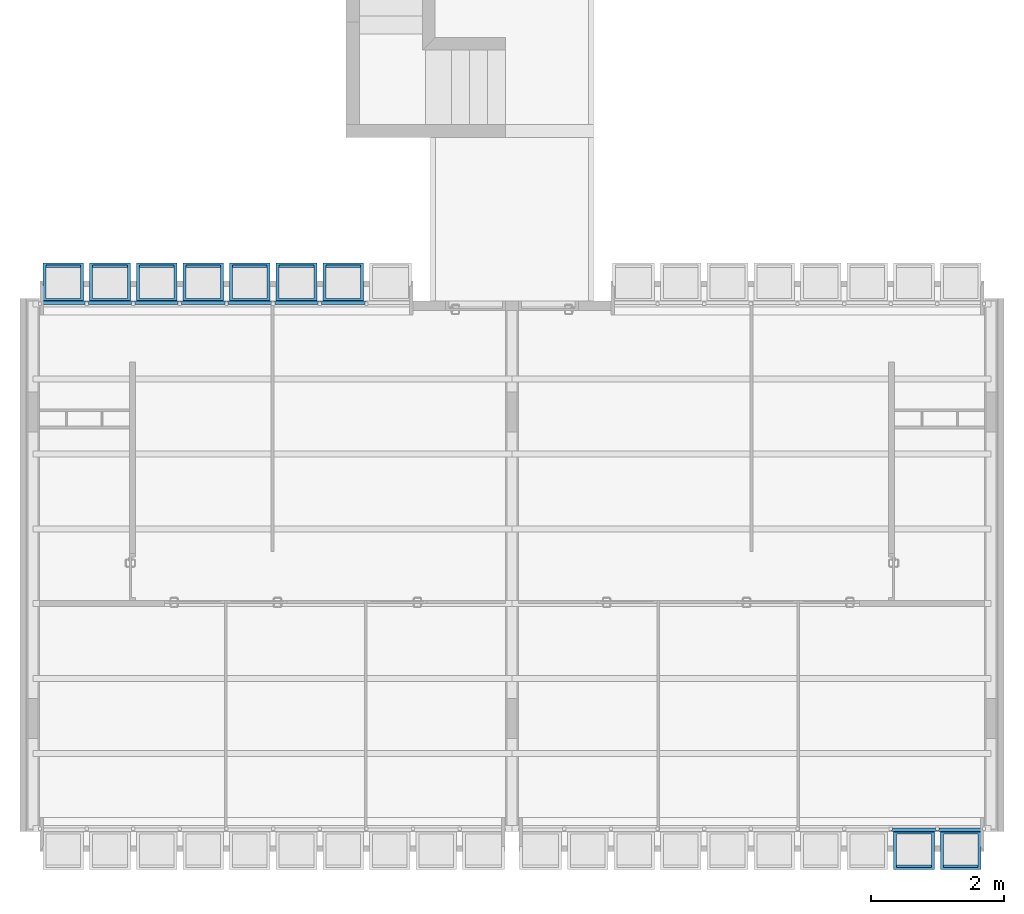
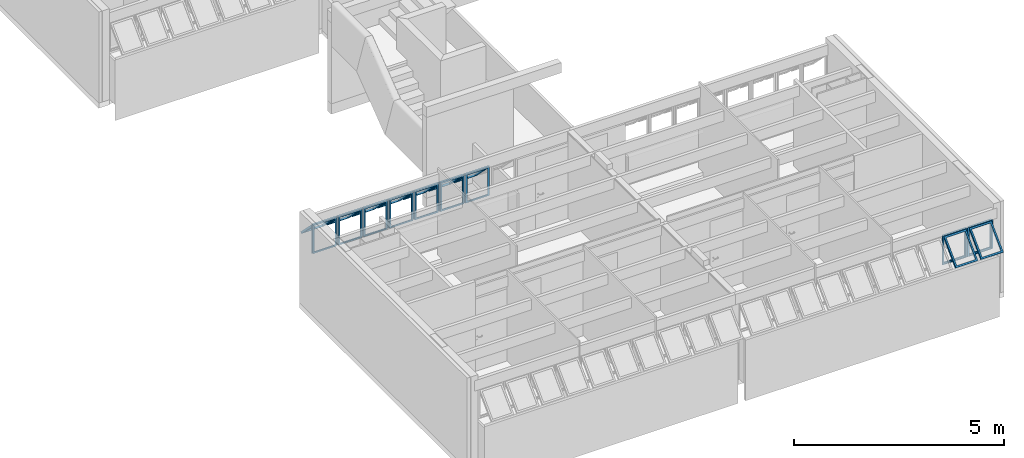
# One storey, part 28 of 37: 9 building element parts, 11 elements without a shape of their own.
"""IFC2X3 building model written with IfcOpenShell, lengths in millimetres."""

from ifc_helpers import new_model, entity, si_unit, converted_unit, derived_unit, money_unit, direction, frame, origin_with_axes, place, context, subcontext, project, spatial, faceted_brep, source, transform, mapped, material, type_object, element, aggregate, save


model = new_model("IFC2X3")

# Units and contexts
model_context = context("Model", 3, precision=0.01, world=origin_with_axes(), true_north=direction((0.0, 1.0)))
body_context = subcontext(model_context, "Body", "Model", "MODEL_VIEW")
ifc_project = project(units=[si_unit("LENGTHUNIT", "METRE", prefix="MILLI"), si_unit("AREAUNIT", "SQUARE_METRE"), si_unit("VOLUMEUNIT", "CUBIC_METRE"), converted_unit("PLANEANGLEUNIT", "DEGREE", entity("IfcPlaneAngleMeasure", 0.0174532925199), si_unit("PLANEANGLEUNIT", "RADIAN"), dimensions=[0, 0, 0, 0, 0, 0, 0]), money_unit("USD"), converted_unit("TIMEUNIT", "Year", entity("IfcTimeMeasure", 31556926.0), si_unit("TIMEUNIT", "SECOND"), dimensions=[0, 0, 1, 0, 0, 0, 0]), si_unit("MASSUNIT", "GRAM", prefix="KILO"), si_unit("THERMODYNAMICTEMPERATUREUNIT", "DEGREE_CELSIUS"), si_unit("LUMINOUSINTENSITYUNIT", "LUMEN"), si_unit("ENERGYUNIT", "JOULE", prefix="MEGA"), derived_unit("THERMALCONDUCTANCEUNIT", [(si_unit("POWERUNIT", "WATT"), 1), (si_unit("LENGTHUNIT", "METRE"), -1), (si_unit("THERMODYNAMICTEMPERATUREUNIT", "KELVIN"), -1)]), derived_unit("SPECIFICHEATCAPACITYUNIT", [(si_unit("ENERGYUNIT", "JOULE"), 1), (si_unit("MASSUNIT", "GRAM", prefix="KILO"), -1), (si_unit("THERMODYNAMICTEMPERATUREUNIT", "KELVIN"), -1)]), derived_unit("MASSDENSITYUNIT", [(si_unit("MASSUNIT", "GRAM", prefix="KILO"), 1), (si_unit("VOLUMEUNIT", "CUBIC_METRE"), -1)])], contexts=[model_context])

# Site, building, storey
site_placement = place(None, origin_with_axes())
site = spatial("IfcSite", under=ifc_project, at=site_placement, Name="Local", CompositionType="ELEMENT")
building_placement = place(site_placement, origin_with_axes())
building = spatial("IfcBuilding", under=site, at=building_placement, Name="Construção", CompositionType="ELEMENT")
storey_placement = place(building_placement, origin_with_axes())
storey = spatial("IfcBuildingStorey", under=building, at=storey_placement, Name="Primeiro Pavimento", CompositionType="ELEMENT", Elevation=0.0)

# Window, plates, building element parts
window_style = type_object("IfcWindowStyle", Name="Tipo de Parede Cortina", ConstructionType="NOTDEFINED", OperationType="NOTDEFINED", ParameterTakesPrecedence=False, Sizeable=False)
window_1_placement = place(storey_placement, frame((294.99998404, 8250.0, 1355.00007107), z_axis=(0.0, 0.0, 1.0), x_axis=(1.0, 0.0, 0.0)))
window_1 = element("IfcWindow", 1, at=window_1_placement, inside=storey, type_object=window_style, Name="APTO1-JANELA-000")
plate_type = type_object("IfcPlateType", Name="Painel Principal 690 x 845 x 20", PredefinedType="CURTAIN_PANEL")
plate_1_placement = place(window_1_placement, frame((4555.00001596, 0.0, 422.499964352), z_axis=(0.0, 0.0, 1.0), x_axis=(-1.0, 0.0, 0.0)))
plate_1 = element("IfcPlate", 2, at=plate_1_placement, type_object=plate_type, Name="APTO1-Painel-Prin-029")
ifc_material = material(Name="Alumínio")
shared_shape_1 = source(origin_with_axes(), body_context, "Body", "Brep", [
    faceted_brep([(-25.0000036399, 0.0, -40.0), (-25.0000036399, 0.0, -35.0), (-674.999997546, 0.0, -35.0), (-674.999997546, 0.0, -40.0), (-70.0000036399, 45.0, -40.0), (-70.0000036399, 45.0, -35.0), (-629.999997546, 45.0, -35.0), (-629.999997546, 45.0, -40.0)], [[[0, 1, 2, 3]], [[4, 5, 1, 0]], [[1, 5, 6, 2]], [[3, 2, 6, 7]], [[0, 3, 7, 4]], [[7, 6, 5, 4]]]),
    faceted_brep([(-674.999997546, 0.0, -40.0), (-674.999997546, 0.0, -35.0), (-674.999997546, 844.999891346, -35.0), (-674.999997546, 844.999891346, -40.0), (-629.999997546, 45.0, -40.0), (-629.999997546, 45.0, -35.0), (-629.999997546, 799.999891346, -35.0), (-629.999997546, 799.999891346, -40.0)], [[[0, 1, 2, 3]], [[4, 5, 1, 0]], [[1, 5, 6, 2]], [[3, 2, 6, 7]], [[0, 3, 7, 4]], [[7, 6, 5, 4]]]),
    faceted_brep([(-25.0000036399, 844.999891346, -40.0), (-25.0000036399, 844.999891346, -35.0), (-70.0000036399, 799.999891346, -35.0), (-70.0000036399, 799.999891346, -40.0), (-674.999997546, 844.999891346, -40.0), (-674.999997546, 844.999891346, -35.0), (-629.999997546, 799.999891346, -35.0), (-629.999997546, 799.999891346, -40.0)], [[[0, 1, 2, 3]], [[4, 5, 1, 0]], [[1, 5, 6, 2]], [[3, 2, 6, 7]], [[0, 3, 7, 4]], [[7, 6, 5, 4]]]),
    faceted_brep([(-25.0000036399, 0.0, -40.0), (-25.0000036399, 0.0, -35.0), (-70.0000036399, 45.0, -35.0), (-70.0000036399, 45.0, -40.0), (-25.0000036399, 844.999891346, -40.0), (-25.0000036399, 844.999891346, -35.0), (-70.0000036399, 799.999891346, -35.0), (-70.0000036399, 799.999891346, -40.0)], [[[0, 1, 2, 3]], [[4, 5, 1, 0]], [[1, 5, 6, 2]], [[3, 2, 6, 7]], [[0, 3, 7, 4]], [[7, 6, 5, 4]]]),
    faceted_brep([(-25.0000036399, 0.0, -35.0), (-25.0000036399, 0.0, 15.0), (-674.999997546, 0.0, 15.0), (-674.999997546, 0.0, -35.0), (-45.0000036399, 20.0, -35.0), (-45.0000036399, 20.0, 15.0), (-654.999997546, 20.0, 15.0), (-654.999997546, 20.0, -35.0)], [[[0, 1, 2, 3]], [[4, 5, 1, 0]], [[1, 5, 6, 2]], [[3, 2, 6, 7]], [[0, 3, 7, 4]], [[7, 6, 5, 4]]]),
    faceted_brep([(-674.999997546, 0.0, -35.0), (-674.999997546, 0.0, 15.0), (-674.999997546, 844.999891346, 15.0), (-674.999997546, 844.999891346, -35.0), (-654.999997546, 20.0, -35.0), (-654.999997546, 20.0, 15.0), (-654.999997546, 824.999891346, 15.0), (-654.999997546, 824.999891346, -35.0)], [[[0, 1, 2, 3]], [[4, 5, 1, 0]], [[1, 5, 6, 2]], [[3, 2, 6, 7]], [[0, 3, 7, 4]], [[7, 6, 5, 4]]]),
    faceted_brep([(-25.0000036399, 844.999891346, -35.0), (-25.0000036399, 844.999891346, 15.0), (-45.0000036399, 824.999891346, 15.0), (-45.0000036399, 824.999891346, -35.0), (-674.999997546, 844.999891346, -35.0), (-674.999997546, 844.999891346, 15.0), (-654.999997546, 824.999891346, 15.0), (-654.999997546, 824.999891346, -35.0)], [[[0, 1, 2, 3]], [[4, 5, 1, 0]], [[1, 5, 6, 2]], [[3, 2, 6, 7]], [[0, 3, 7, 4]], [[7, 6, 5, 4]]]),
    faceted_brep([(-25.0000036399, 0.0, -35.0), (-25.0000036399, 0.0, 15.0), (-45.0000036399, 20.0, 15.0), (-45.0000036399, 20.0, -35.0), (-25.0000036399, 844.999891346, -35.0), (-25.0000036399, 844.999891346, 15.0), (-45.0000036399, 824.999891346, 15.0), (-45.0000036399, 824.999891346, -35.0)], [[[0, 1, 2, 3]], [[4, 5, 1, 0]], [[1, 5, 6, 2]], [[3, 2, 6, 7]], [[0, 3, 7, 4]], [[7, 6, 5, 4]]]),
    faceted_brep([(-694.999995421, 0.0, -10.0), (-694.999995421, 0.0, 10.0), (-694.999995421, 844.999891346, 10.0), (-694.999995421, 844.999891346, -10.0), (-674.999997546, 0.0, -10.0), (-674.999997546, 0.0, 10.0), (-674.999997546, 844.999891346, 10.0), (-674.999997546, 844.999891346, -10.0)], [[[0, 1, 2, 3]], [[4, 5, 1, 0]], [[1, 5, 6, 2]], [[3, 2, 6, 7]], [[0, 3, 7, 4]], [[7, 6, 5, 4]]]),
    faceted_brep([(-5.00000576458, 844.999891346, -10.0), (-5.00000576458, 844.999891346, 10.0), (-5.00000576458, 0.0, 10.0), (-5.00000576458, 0.0, -10.0), (-25.0000036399, 844.999891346, -10.0), (-25.0000036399, 844.999891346, 10.0), (-25.0000036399, 0.0, 10.0), (-25.0000036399, 0.0, -10.0)], [[[0, 1, 2, 3]], [[4, 5, 1, 0]], [[1, 5, 6, 2]], [[3, 2, 6, 7]], [[0, 3, 7, 4]], [[7, 6, 5, 4]]]),
    faceted_brep([(-90.0000036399, 252.243475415, 517.045737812), (-90.0000036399, 291.13434838, 555.936610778), (-90.0000036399, 796.715620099, 50.3553390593), (-90.0000036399, 757.824747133, 11.4644660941), (-45.0000036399, 220.423670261, 548.865542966), (-45.0000036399, 259.314543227, 587.756415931), (-45.0000036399, 828.535425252, 18.5355339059), (-45.0000036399, 789.644552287, -20.3553390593)], [[[0, 1, 2, 3]], [[4, 5, 1, 0]], [[1, 5, 6, 2]], [[3, 2, 6, 7]], [[0, 3, 7, 4]], [[7, 6, 5, 4]]]),
    faceted_brep([(-654.999997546, 220.423670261, 548.865542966), (-654.999997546, 259.314543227, 587.756415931), (-654.999997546, 828.535425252, 18.5355339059), (-654.999997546, 789.644552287, -20.3553390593), (-609.999997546, 252.243475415, 517.045737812), (-609.999997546, 291.13434838, 555.936610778), (-609.999997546, 796.715620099, 50.3553390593), (-609.999997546, 757.824747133, 11.4644660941)], [[[0, 1, 2, 3]], [[4, 5, 1, 0]], [[1, 5, 6, 2]], [[3, 2, 6, 7]], [[0, 3, 7, 4]], [[7, 6, 5, 4]]]),
    faceted_brep([(-654.999997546, 220.423670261, 548.865542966), (-654.999997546, 259.314543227, 587.756415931), (-609.999997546, 291.13434838, 555.936610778), (-609.999997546, 252.243475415, 517.045737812), (-45.0000036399, 220.423670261, 548.865542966), (-45.0000036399, 259.314543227, 587.756415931), (-90.0000036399, 291.13434838, 555.936610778), (-90.0000036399, 252.243475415, 517.045737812)], [[[0, 1, 2, 3]], [[4, 5, 1, 0]], [[1, 5, 6, 2]], [[3, 2, 6, 7]], [[0, 3, 7, 4]], [[7, 6, 5, 4]]]),
    faceted_brep([(-45.0000036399, 789.644552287, -20.3553390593), (-45.0000036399, 828.535425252, 18.5355339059), (-90.0000036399, 796.715620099, 50.3553390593), (-90.0000036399, 757.824747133, 11.4644660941), (-654.999997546, 789.644552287, -20.3553390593), (-654.999997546, 828.535425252, 18.5355339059), (-609.999997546, 796.715620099, 50.3553390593), (-609.999997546, 757.824747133, 11.4644660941)], [[[0, 1, 2, 3]], [[4, 5, 1, 0]], [[1, 5, 6, 2]], [[3, 2, 6, 7]], [[0, 3, 7, 4]], [[7, 6, 5, 4]]]),
])
building_element_part_1_placement = place(plate_1_placement, origin_with_axes())
building_element_part_1 = element("IfcBuildingElementPart", 3, at=building_element_part_1_placement, material=ifc_material, Name="Alumínio", context=body_context, shape_type="MappedRepresentation", body=[
    mapped(shared_shape_1, transform((350.0, 0.0, -422.499964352), x_axis=(1.0, 0.0, 0.0), y_axis=(0.0, 0.0, 1.0), z_axis=(0.0, -1.0, 0.0))),
])
aggregate(plate_1, [building_element_part_1])
plate_2_placement = place(window_1_placement, frame((2455.00001596, 0.0, 422.499964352), z_axis=(0.0, 0.0, 1.0), x_axis=(-1.0, 0.0, 0.0)))
plate_2 = element("IfcPlate", 4, at=plate_2_placement, type_object=plate_type, Name="APTO1-Painel-Prin-013")
building_element_part_2_placement = place(plate_2_placement, origin_with_axes())
building_element_part_2 = element("IfcBuildingElementPart", 5, at=building_element_part_2_placement, material=ifc_material, Name="Alumínio", context=body_context, shape_type="MappedRepresentation", body=[
    mapped(shared_shape_1, transform((350.0, 0.0, -422.499964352), x_axis=(1.0, 0.0, 0.0), y_axis=(0.0, 0.0, 1.0), z_axis=(0.0, -1.0, 0.0))),
])
aggregate(plate_2, [building_element_part_2])

window_2_placement = place(storey_placement, frame((8520.0, 315.020977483, 1355.02054151), z_axis=(0.0, 0.0, 1.0), x_axis=(1.0, 0.0, 0.0)))
window_2 = element("IfcWindow", 6, at=window_2_placement, inside=storey, type_object=window_style, Name="APTO2-JANELA-001")
plate_3_placement = place(window_2_placement, frame((5600.0, 0.0, 422.499945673), z_axis=(0.0, 0.0, 1.0), x_axis=(1.0, 0.0, 0.0)))
plate_3 = element("IfcPlate", 7, at=plate_3_placement, type_object=plate_type, Name="APTO2-Painel-Prin-013")
shared_shape_2 = source(origin_with_axes(), body_context, "Body", "Brep", [
    faceted_brep([(-25.0000036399, 0.0, -40.0), (-25.0000036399, 0.0, -35.0), (-674.999997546, 0.0, -35.0), (-674.999997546, 0.0, -40.0), (-70.0000036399, 45.0, -40.0), (-70.0000036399, 45.0, -35.0), (-629.999997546, 45.0, -35.0), (-629.999997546, 45.0, -40.0)], [[[0, 1, 2, 3]], [[4, 5, 1, 0]], [[1, 5, 6, 2]], [[3, 2, 6, 7]], [[0, 3, 7, 4]], [[7, 6, 5, 4]]]),
    faceted_brep([(-674.999997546, 0.0, -40.0), (-674.999997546, 0.0, -35.0), (-674.999997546, 844.999891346, -35.0), (-674.999997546, 844.999891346, -40.0), (-629.999997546, 45.0, -40.0), (-629.999997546, 45.0, -35.0), (-629.999997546, 799.999891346, -35.0), (-629.999997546, 799.999891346, -40.0)], [[[0, 1, 2, 3]], [[4, 5, 1, 0]], [[1, 5, 6, 2]], [[3, 2, 6, 7]], [[0, 3, 7, 4]], [[7, 6, 5, 4]]]),
    faceted_brep([(-25.0000036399, 844.999891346, -40.0), (-25.0000036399, 844.999891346, -35.0), (-70.0000036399, 799.999891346, -35.0), (-70.0000036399, 799.999891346, -40.0), (-674.999997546, 844.999891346, -40.0), (-674.999997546, 844.999891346, -35.0), (-629.999997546, 799.999891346, -35.0), (-629.999997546, 799.999891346, -40.0)], [[[0, 1, 2, 3]], [[4, 5, 1, 0]], [[1, 5, 6, 2]], [[3, 2, 6, 7]], [[0, 3, 7, 4]], [[7, 6, 5, 4]]]),
    faceted_brep([(-25.0000036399, 0.0, -40.0), (-25.0000036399, 0.0, -35.0), (-70.0000036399, 45.0, -35.0), (-70.0000036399, 45.0, -40.0), (-25.0000036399, 844.999891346, -40.0), (-25.0000036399, 844.999891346, -35.0), (-70.0000036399, 799.999891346, -35.0), (-70.0000036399, 799.999891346, -40.0)], [[[0, 1, 2, 3]], [[4, 5, 1, 0]], [[1, 5, 6, 2]], [[3, 2, 6, 7]], [[0, 3, 7, 4]], [[7, 6, 5, 4]]]),
    faceted_brep([(-25.0000036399, 0.0, -35.0), (-25.0000036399, 0.0, 15.0), (-674.999997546, 0.0, 15.0), (-674.999997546, 0.0, -35.0), (-45.0000036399, 20.0, -35.0), (-45.0000036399, 20.0, 15.0), (-654.999997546, 20.0, 15.0), (-654.999997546, 20.0, -35.0)], [[[0, 1, 2, 3]], [[4, 5, 1, 0]], [[1, 5, 6, 2]], [[3, 2, 6, 7]], [[0, 3, 7, 4]], [[7, 6, 5, 4]]]),
    faceted_brep([(-674.999997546, 0.0, -35.0), (-674.999997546, 0.0, 15.0), (-674.999997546, 844.999891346, 15.0), (-674.999997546, 844.999891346, -35.0), (-654.999997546, 20.0, -35.0), (-654.999997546, 20.0, 15.0), (-654.999997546, 824.999891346, 15.0), (-654.999997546, 824.999891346, -35.0)], [[[0, 1, 2, 3]], [[4, 5, 1, 0]], [[1, 5, 6, 2]], [[3, 2, 6, 7]], [[0, 3, 7, 4]], [[7, 6, 5, 4]]]),
    faceted_brep([(-25.0000036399, 844.999891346, -35.0), (-25.0000036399, 844.999891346, 15.0), (-45.0000036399, 824.999891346, 15.0), (-45.0000036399, 824.999891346, -35.0), (-674.999997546, 844.999891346, -35.0), (-674.999997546, 844.999891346, 15.0), (-654.999997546, 824.999891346, 15.0), (-654.999997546, 824.999891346, -35.0)], [[[0, 1, 2, 3]], [[4, 5, 1, 0]], [[1, 5, 6, 2]], [[3, 2, 6, 7]], [[0, 3, 7, 4]], [[7, 6, 5, 4]]]),
    faceted_brep([(-25.0000036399, 0.0, -35.0), (-25.0000036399, 0.0, 15.0), (-45.0000036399, 20.0, 15.0), (-45.0000036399, 20.0, -35.0), (-25.0000036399, 844.999891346, -35.0), (-25.0000036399, 844.999891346, 15.0), (-45.0000036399, 824.999891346, 15.0), (-45.0000036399, 824.999891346, -35.0)], [[[0, 1, 2, 3]], [[4, 5, 1, 0]], [[1, 5, 6, 2]], [[3, 2, 6, 7]], [[0, 3, 7, 4]], [[7, 6, 5, 4]]]),
    faceted_brep([(-694.999995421, 0.0, -10.0), (-694.999995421, 0.0, 10.0), (-694.999995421, 844.999891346, 10.0), (-694.999995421, 844.999891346, -10.0), (-674.999997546, 0.0, -10.0), (-674.999997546, 0.0, 10.0), (-674.999997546, 844.999891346, 10.0), (-674.999997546, 844.999891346, -10.0)], [[[0, 1, 2, 3]], [[4, 5, 1, 0]], [[1, 5, 6, 2]], [[3, 2, 6, 7]], [[0, 3, 7, 4]], [[7, 6, 5, 4]]]),
    faceted_brep([(-5.00000576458, 844.999891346, -10.0), (-5.00000576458, 844.999891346, 10.0), (-5.00000576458, 0.0, 10.0), (-5.00000576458, 0.0, -10.0), (-25.0000036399, 844.999891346, -10.0), (-25.0000036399, 844.999891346, 10.0), (-25.0000036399, 0.0, 10.0), (-25.0000036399, 0.0, -10.0)], [[[0, 1, 2, 3]], [[4, 5, 1, 0]], [[1, 5, 6, 2]], [[3, 2, 6, 7]], [[0, 3, 7, 4]], [[7, 6, 5, 4]]]),
    faceted_brep([(-90.0000036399, 252.243475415, 517.045737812), (-90.0000036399, 291.13434838, 555.936610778), (-90.0000036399, 796.715620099, 50.3553390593), (-90.0000036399, 757.824747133, 11.4644660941), (-45.0000036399, 220.423670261, 548.865542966), (-45.0000036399, 259.314543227, 587.756415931), (-45.0000036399, 828.535425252, 18.5355339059), (-45.0000036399, 789.644552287, -20.3553390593)], [[[0, 1, 2, 3]], [[4, 5, 1, 0]], [[1, 5, 6, 2]], [[3, 2, 6, 7]], [[0, 3, 7, 4]], [[7, 6, 5, 4]]]),
    faceted_brep([(-654.999997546, 220.423670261, 548.865542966), (-654.999997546, 259.314543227, 587.756415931), (-654.999997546, 828.535425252, 18.5355339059), (-654.999997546, 789.644552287, -20.3553390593), (-609.999997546, 252.243475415, 517.045737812), (-609.999997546, 291.13434838, 555.936610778), (-609.999997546, 796.715620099, 50.3553390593), (-609.999997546, 757.824747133, 11.4644660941)], [[[0, 1, 2, 3]], [[4, 5, 1, 0]], [[1, 5, 6, 2]], [[3, 2, 6, 7]], [[0, 3, 7, 4]], [[7, 6, 5, 4]]]),
    faceted_brep([(-654.999997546, 220.423670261, 548.865542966), (-654.999997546, 259.314543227, 587.756415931), (-609.999997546, 291.13434838, 555.936610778), (-609.999997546, 252.243475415, 517.045737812), (-45.0000036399, 220.423670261, 548.865542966), (-45.0000036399, 259.314543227, 587.756415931), (-90.0000036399, 291.13434838, 555.936610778), (-90.0000036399, 252.243475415, 517.045737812)], [[[0, 1, 2, 3]], [[4, 5, 1, 0]], [[1, 5, 6, 2]], [[3, 2, 6, 7]], [[0, 3, 7, 4]], [[7, 6, 5, 4]]]),
    faceted_brep([(-45.0000036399, 789.644552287, -20.3553390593), (-45.0000036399, 828.535425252, 18.5355339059), (-90.0000036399, 796.715620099, 50.3553390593), (-90.0000036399, 757.824747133, 11.4644660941), (-654.999997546, 789.644552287, -20.3553390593), (-654.999997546, 828.535425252, 18.5355339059), (-609.999997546, 796.715620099, 50.3553390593), (-609.999997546, 757.824747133, 11.4644660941)], [[[0, 1, 2, 3]], [[4, 5, 1, 0]], [[1, 5, 6, 2]], [[3, 2, 6, 7]], [[0, 3, 7, 4]], [[7, 6, 5, 4]]]),
])
building_element_part_3_placement = place(plate_3_placement, origin_with_axes())
building_element_part_3 = element("IfcBuildingElementPart", 8, at=building_element_part_3_placement, material=ifc_material, Name="Alumínio", context=body_context, shape_type="MappedRepresentation", body=[
    mapped(shared_shape_2, transform((350.0, 0.0, -422.499945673), x_axis=(1.0, 0.0, 0.0), y_axis=(0.0, 0.0, 1.0), z_axis=(0.0, -1.0, 0.0))),
])
aggregate(plate_3, [building_element_part_3])
plate_4_placement = place(window_2_placement, frame((4900.0, 0.0, 422.499945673), z_axis=(0.0, 0.0, 1.0), x_axis=(1.0, 0.0, 0.0)))
plate_4 = element("IfcPlate", 9, at=plate_4_placement, type_object=plate_type, Name="APTO2-Painel-Prin-013")
aggregate(window_2, [plate_3, plate_4])
building_element_part_4_placement = place(plate_4_placement, origin_with_axes())
building_element_part_4 = element("IfcBuildingElementPart", 10, at=building_element_part_4_placement, material=ifc_material, Name="Alumínio", context=body_context, shape_type="MappedRepresentation", body=[
    mapped(shared_shape_2, transform((350.0, 0.0, -422.499945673), x_axis=(1.0, 0.0, 0.0), y_axis=(0.0, 0.0, 1.0), z_axis=(0.0, -1.0, 0.0))),
])
aggregate(plate_4, [building_element_part_4])

# Plate, building element part
plate_5_placement = place(window_1_placement, frame((3855.00001596, 0.0, 422.499964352), z_axis=(0.0, 0.0, 1.0), x_axis=(-1.0, 0.0, 0.0)))
plate_5 = element("IfcPlate", 11, at=plate_5_placement, type_object=plate_type, Name="APTO1-Painel-Prin-025")
building_element_part_5_placement = place(plate_5_placement, origin_with_axes())
building_element_part_5 = element("IfcBuildingElementPart", 12, at=building_element_part_5_placement, material=ifc_material, Name="Alumínio", context=body_context, shape_type="MappedRepresentation", body=[
    mapped(shared_shape_2, transform((350.0, 0.0, -422.499964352), x_axis=(1.0, 0.0, 0.0), y_axis=(0.0, 0.0, 1.0), z_axis=(0.0, -1.0, 0.0))),
])
aggregate(plate_5, [building_element_part_5])

plate_6_placement = place(window_1_placement, frame((1055.00001596, 0.0, 422.499964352), z_axis=(0.0, 0.0, 1.0), x_axis=(-1.0, 0.0, 0.0)))
plate_6 = element("IfcPlate", 13, at=plate_6_placement, type_object=plate_type, Name="APTO1-Painel-Prin-013")
building_element_part_6_placement = place(plate_6_placement, origin_with_axes())
building_element_part_6 = element("IfcBuildingElementPart", 14, at=building_element_part_6_placement, material=ifc_material, Name="Alumínio", context=body_context, shape_type="MappedRepresentation", body=[
    mapped(shared_shape_2, transform((350.0, 0.0, -422.499964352), x_axis=(1.0, 0.0, 0.0), y_axis=(0.0, 0.0, 1.0), z_axis=(0.0, -1.0, 0.0))),
])
aggregate(plate_6, [building_element_part_6])

plate_7_placement = place(window_1_placement, frame((355.00001596, 0.0, 422.499998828), z_axis=(0.0, 0.0, 1.0), x_axis=(-1.0, 0.0, 0.0)))
plate_7 = element("IfcPlate", 15, at=plate_7_placement, type_object=plate_type, Name="APTO1-Painel-Prin-013")
building_element_part_7_placement = place(plate_7_placement, origin_with_axes())
building_element_part_7 = element("IfcBuildingElementPart", 16, at=building_element_part_7_placement, material=ifc_material, Name="Alumínio", context=body_context, shape_type="MappedRepresentation", body=[
    mapped(shared_shape_2, transform((350.0, 0.0, -422.499998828), x_axis=(1.0, 0.0, 0.0), y_axis=(0.0, 0.0, 1.0), z_axis=(0.0, -1.0, 0.0))),
])
aggregate(plate_7, [building_element_part_7])

plate_8_placement = place(window_1_placement, frame((1755.00001596, 0.0, 422.499964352), z_axis=(0.0, 0.0, 1.0), x_axis=(-1.0, 0.0, 0.0)))
plate_8 = element("IfcPlate", 17, at=plate_8_placement, type_object=plate_type, Name="APTO1-Painel-Prin-013")
shared_shape_3 = source(origin_with_axes(), body_context, "Body", "Brep", [
    faceted_brep([(-25.0000036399, 0.0, -40.0), (-25.0000036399, 0.0, -35.0), (-674.999997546, 0.0, -35.0), (-674.999997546, 0.0, -40.0), (-70.0000036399, 45.0, -40.0), (-70.0000036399, 45.0, -35.0), (-629.999997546, 45.0, -35.0), (-629.999997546, 45.0, -40.0)], [[[0, 1, 2, 3]], [[4, 5, 1, 0]], [[1, 5, 6, 2]], [[3, 2, 6, 7]], [[0, 3, 7, 4]], [[7, 6, 5, 4]]]),
    faceted_brep([(-674.999997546, 0.0, -40.0), (-674.999997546, 0.0, -35.0), (-674.999997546, 844.999891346, -35.0), (-674.999997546, 844.999891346, -40.0), (-629.999997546, 45.0, -40.0), (-629.999997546, 45.0, -35.0), (-629.999997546, 799.999891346, -35.0), (-629.999997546, 799.999891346, -40.0)], [[[0, 1, 2, 3]], [[4, 5, 1, 0]], [[1, 5, 6, 2]], [[3, 2, 6, 7]], [[0, 3, 7, 4]], [[7, 6, 5, 4]]]),
    faceted_brep([(-25.0000036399, 844.999891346, -40.0), (-25.0000036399, 844.999891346, -35.0), (-70.0000036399, 799.999891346, -35.0), (-70.0000036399, 799.999891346, -40.0), (-674.999997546, 844.999891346, -40.0), (-674.999997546, 844.999891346, -35.0), (-629.999997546, 799.999891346, -35.0), (-629.999997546, 799.999891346, -40.0)], [[[0, 1, 2, 3]], [[4, 5, 1, 0]], [[1, 5, 6, 2]], [[3, 2, 6, 7]], [[0, 3, 7, 4]], [[7, 6, 5, 4]]]),
    faceted_brep([(-25.0000036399, 0.0, -40.0), (-25.0000036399, 0.0, -35.0), (-70.0000036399, 45.0, -35.0), (-70.0000036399, 45.0, -40.0), (-25.0000036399, 844.999891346, -40.0), (-25.0000036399, 844.999891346, -35.0), (-70.0000036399, 799.999891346, -35.0), (-70.0000036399, 799.999891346, -40.0)], [[[0, 1, 2, 3]], [[4, 5, 1, 0]], [[1, 5, 6, 2]], [[3, 2, 6, 7]], [[0, 3, 7, 4]], [[7, 6, 5, 4]]]),
    faceted_brep([(-25.0000036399, 0.0, -35.0), (-25.0000036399, 0.0, 15.0), (-674.999997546, 0.0, 15.0), (-674.999997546, 0.0, -35.0), (-45.0000036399, 20.0, -35.0), (-45.0000036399, 20.0, 15.0), (-654.999997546, 20.0, 15.0), (-654.999997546, 20.0, -35.0)], [[[0, 1, 2, 3]], [[4, 5, 1, 0]], [[1, 5, 6, 2]], [[3, 2, 6, 7]], [[0, 3, 7, 4]], [[7, 6, 5, 4]]]),
    faceted_brep([(-674.999997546, 0.0, -35.0), (-674.999997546, 0.0, 15.0), (-674.999997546, 844.999891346, 15.0), (-674.999997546, 844.999891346, -35.0), (-654.999997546, 20.0, -35.0), (-654.999997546, 20.0, 15.0), (-654.999997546, 824.999891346, 15.0), (-654.999997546, 824.999891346, -35.0)], [[[0, 1, 2, 3]], [[4, 5, 1, 0]], [[1, 5, 6, 2]], [[3, 2, 6, 7]], [[0, 3, 7, 4]], [[7, 6, 5, 4]]]),
    faceted_brep([(-25.0000036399, 844.999891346, -35.0), (-25.0000036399, 844.999891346, 15.0), (-45.0000036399, 824.999891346, 15.0), (-45.0000036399, 824.999891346, -35.0), (-674.999997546, 844.999891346, -35.0), (-674.999997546, 844.999891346, 15.0), (-654.999997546, 824.999891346, 15.0), (-654.999997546, 824.999891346, -35.0)], [[[0, 1, 2, 3]], [[4, 5, 1, 0]], [[1, 5, 6, 2]], [[3, 2, 6, 7]], [[0, 3, 7, 4]], [[7, 6, 5, 4]]]),
    faceted_brep([(-25.0000036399, 0.0, -35.0), (-25.0000036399, 0.0, 15.0), (-45.0000036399, 20.0, 15.0), (-45.0000036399, 20.0, -35.0), (-25.0000036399, 844.999891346, -35.0), (-25.0000036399, 844.999891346, 15.0), (-45.0000036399, 824.999891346, 15.0), (-45.0000036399, 824.999891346, -35.0)], [[[0, 1, 2, 3]], [[4, 5, 1, 0]], [[1, 5, 6, 2]], [[3, 2, 6, 7]], [[0, 3, 7, 4]], [[7, 6, 5, 4]]]),
    faceted_brep([(-694.999995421, 0.0, -10.0), (-694.999995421, 0.0, 10.0), (-694.999995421, 844.999891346, 10.0), (-694.999995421, 844.999891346, -10.0), (-674.999997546, 0.0, -10.0), (-674.999997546, 0.0, 10.0), (-674.999997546, 844.999891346, 10.0), (-674.999997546, 844.999891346, -10.0)], [[[0, 1, 2, 3]], [[4, 5, 1, 0]], [[1, 5, 6, 2]], [[3, 2, 6, 7]], [[0, 3, 7, 4]], [[7, 6, 5, 4]]]),
    faceted_brep([(-5.00000576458, 844.999891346, -10.0), (-5.00000576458, 844.999891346, 10.0), (-5.00000576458, 0.0, 10.0), (-5.00000576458, 0.0, -10.0), (-25.0000036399, 844.999891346, -10.0), (-25.0000036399, 844.999891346, 10.0), (-25.0000036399, 0.0, 10.0), (-25.0000036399, 0.0, -10.0)], [[[0, 1, 2, 3]], [[4, 5, 1, 0]], [[1, 5, 6, 2]], [[3, 2, 6, 7]], [[0, 3, 7, 4]], [[7, 6, 5, 4]]]),
    faceted_brep([(-90.0000036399, 252.243475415, 517.045737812), (-90.0000036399, 291.13434838, 555.936610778), (-90.0000036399, 796.715620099, 50.3553390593), (-90.0000036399, 757.824747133, 11.4644660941), (-45.0000036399, 220.423670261, 548.865542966), (-45.0000036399, 259.314543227, 587.756415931), (-45.0000036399, 828.535425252, 18.5355339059), (-45.0000036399, 789.644552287, -20.3553390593)], [[[0, 1, 2, 3]], [[4, 5, 1, 0]], [[1, 5, 6, 2]], [[3, 2, 6, 7]], [[0, 3, 7, 4]], [[7, 6, 5, 4]]]),
    faceted_brep([(-654.999997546, 220.423670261, 548.865542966), (-654.999997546, 259.314543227, 587.756415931), (-654.999997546, 828.535425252, 18.5355339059), (-654.999997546, 789.644552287, -20.3553390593), (-609.999997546, 252.243475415, 517.045737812), (-609.999997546, 291.13434838, 555.936610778), (-609.999997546, 796.715620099, 50.3553390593), (-609.999997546, 757.824747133, 11.4644660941)], [[[0, 1, 2, 3]], [[4, 5, 1, 0]], [[1, 5, 6, 2]], [[3, 2, 6, 7]], [[0, 3, 7, 4]], [[7, 6, 5, 4]]]),
    faceted_brep([(-654.999997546, 220.423670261, 548.865542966), (-654.999997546, 259.314543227, 587.756415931), (-609.999997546, 291.13434838, 555.936610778), (-609.999997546, 252.243475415, 517.045737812), (-45.0000036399, 220.423670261, 548.865542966), (-45.0000036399, 259.314543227, 587.756415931), (-90.0000036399, 291.13434838, 555.936610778), (-90.0000036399, 252.243475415, 517.045737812)], [[[0, 1, 2, 3]], [[4, 5, 1, 0]], [[1, 5, 6, 2]], [[3, 2, 6, 7]], [[0, 3, 7, 4]], [[7, 6, 5, 4]]]),
    faceted_brep([(-45.0000036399, 789.644552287, -20.3553390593), (-45.0000036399, 828.535425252, 18.5355339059), (-90.0000036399, 796.715620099, 50.3553390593), (-90.0000036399, 757.824747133, 11.4644660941), (-654.999997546, 789.644552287, -20.3553390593), (-654.999997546, 828.535425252, 18.5355339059), (-609.999997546, 796.715620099, 50.3553390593), (-609.999997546, 757.824747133, 11.4644660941)], [[[0, 1, 2, 3]], [[4, 5, 1, 0]], [[1, 5, 6, 2]], [[3, 2, 6, 7]], [[0, 3, 7, 4]], [[7, 6, 5, 4]]]),
])
building_element_part_8_placement = place(plate_8_placement, origin_with_axes())
building_element_part_8 = element("IfcBuildingElementPart", 18, at=building_element_part_8_placement, material=ifc_material, Name="Alumínio", context=body_context, shape_type="MappedRepresentation", body=[
    mapped(shared_shape_3, transform((350.0, 0.0, -422.499964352), x_axis=(1.0, 0.0, 0.0), y_axis=(0.0, 0.0, 1.0), z_axis=(0.0, -1.0, 0.0))),
])
aggregate(plate_8, [building_element_part_8])

# Plate
plate_9_placement = place(window_1_placement, frame((3155.00001596, 0.0, 422.499964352), z_axis=(0.0, 0.0, 1.0), x_axis=(-1.0, 0.0, 0.0)))
plate_9 = element("IfcPlate", 19, at=plate_9_placement, type_object=plate_type, Name="APTO1-Painel-Prin-013")

aggregate(window_1, [plate_8, plate_5, plate_9, plate_6, plate_7, plate_1, plate_2])

# Building element part
building_element_part_9_placement = place(plate_9_placement, origin_with_axes())
building_element_part_9 = element("IfcBuildingElementPart", 20, at=building_element_part_9_placement, material=ifc_material, Name="Alumínio", context=body_context, shape_type="MappedRepresentation", body=[
    mapped(shared_shape_3, transform((350.0, 0.0, -422.499964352), x_axis=(1.0, 0.0, 0.0), y_axis=(0.0, 0.0, 1.0), z_axis=(0.0, -1.0, 0.0))),
])

aggregate(plate_9, [building_element_part_9])

save(model, "model.ifc")
